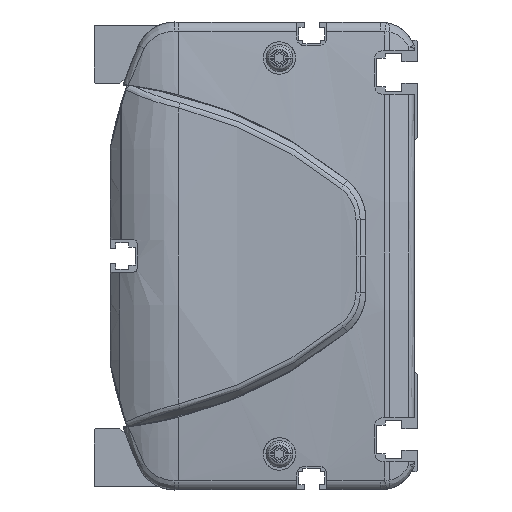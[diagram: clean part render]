
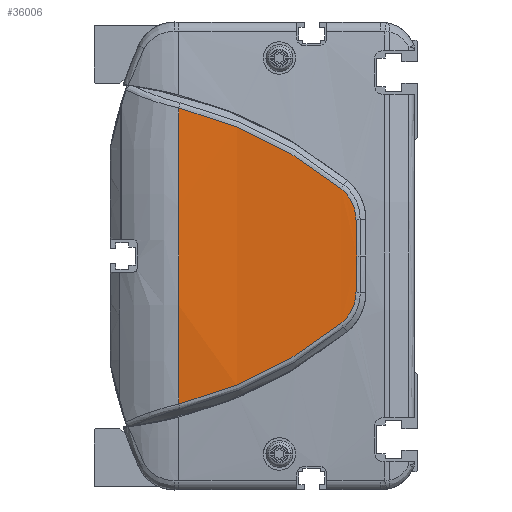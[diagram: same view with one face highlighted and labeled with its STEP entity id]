
A CAD part, left-side view. The second image highlights one B-rep face of the part: STEP entity #36006.
In plain terms, the highlighted cylindrical face has radius 500 mm (diameter 1000 mm), a partial arc.
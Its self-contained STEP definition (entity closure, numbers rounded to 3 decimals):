
#32158=CARTESIAN_POINT('',(486.,66.362,0.));
#32159=DIRECTION('',(0.,-1.,0.));
#32160=DIRECTION('',(-0.997,0.,0.082));
#32161=AXIS2_PLACEMENT_3D('',#32158,#32159,#32160);
#33099=CARTESIAN_POINT('',(-13.648,21.313,
-18.759));
#33100=CARTESIAN_POINT('',(-13.449,27.904,
-24.058));
#33101=CARTESIAN_POINT('',(-12.934,42.195,
-33.27));
#33102=CARTESIAN_POINT('',(-12.471,58.156,
-39.127));
#33103=CARTESIAN_POINT('',(-12.306,66.362,
-41.121));
#33105=CARTESIAN_POINT('',(-12.306,66.362,
41.121));
#33106=CARTESIAN_POINT('',(-12.471,58.156,
39.127));
#33107=CARTESIAN_POINT('',(-12.934,42.195,
33.27));
#33108=CARTESIAN_POINT('',(-13.449,27.904,
24.058));
#33109=CARTESIAN_POINT('',(-13.648,21.313,
18.759));
#33111=CARTESIAN_POINT('',(-13.648,21.313,
18.759));
#33112=CARTESIAN_POINT('',(-13.686,20.035,
17.736));
#33113=CARTESIAN_POINT('',(-13.779,17.936,
15.107));
#33114=CARTESIAN_POINT('',(-13.863,17.152,
11.827));
#33115=CARTESIAN_POINT('',(-13.896,17.124,
10.178));
#33117=CARTESIAN_POINT('',(-13.896,17.124,
10.178));
#33118=CARTESIAN_POINT('',(-13.92,17.107,
9.024));
#33119=CARTESIAN_POINT('',(-13.959,17.067,
6.731));
#33120=CARTESIAN_POINT('',(-13.993,16.98,
3.337));
#33121=CARTESIAN_POINT('',(-14.,16.898,
1.107));
#33122=CARTESIAN_POINT('',(-14.,16.849,
0.));
#33124=CARTESIAN_POINT('',(-14.,16.849,
0.));
#33125=CARTESIAN_POINT('',(-14.,16.898,
-1.107));
#33126=CARTESIAN_POINT('',(-13.993,16.98,
-3.337));
#33127=CARTESIAN_POINT('',(-13.959,17.067,
-6.73));
#33128=CARTESIAN_POINT('',(-13.92,17.107,
-9.026));
#33129=CARTESIAN_POINT('',(-13.896,17.124,
-10.18));
#33131=CARTESIAN_POINT('',(-13.896,17.124,
-10.18));
#33132=CARTESIAN_POINT('',(-13.863,17.152,
-11.828));
#33133=CARTESIAN_POINT('',(-13.779,17.937,
-15.109));
#33134=CARTESIAN_POINT('',(-13.686,20.035,
-17.736));
#33135=CARTESIAN_POINT('',(-13.648,21.313,
-18.759));
#33823=VERTEX_POINT('',#33099);
#33824=VERTEX_POINT('',#33103);
#33825=CARTESIAN_POINT('',(-12.306,66.362,
41.121));
#33826=VERTEX_POINT('',#33825);
#33827=VERTEX_POINT('',#33109);
#33828=VERTEX_POINT('',#33115);
#33829=VERTEX_POINT('',#33122);
#33830=VERTEX_POINT('',#33129);
#35987=CARTESIAN_POINT('',(486.,8.006,0.));
#35988=DIRECTION('',(0.,1.,0.));
#35989=DIRECTION('',(1.,0.,0.));
#35990=AXIS2_PLACEMENT_3D('',#35987,#35988,#35989);
#35991=CYLINDRICAL_SURFACE('',#35990,500.);
#35993=ORIENTED_EDGE('',*,*,#35992,.T.);
#35994=ORIENTED_EDGE('',*,*,#34601,.F.);
#35996=ORIENTED_EDGE('',*,*,#35995,.T.);
#35998=ORIENTED_EDGE('',*,*,#35997,.T.);
#36000=ORIENTED_EDGE('',*,*,#35999,.T.);
#36002=ORIENTED_EDGE('',*,*,#36001,.T.);
#36003=ORIENTED_EDGE('',*,*,#35977,.T.);
#36004=EDGE_LOOP('',(#35993,#35994,#35996,#35998,#36000,#36002,#36003));
#36005=FACE_OUTER_BOUND('',#36004,.F.);
#36006=ADVANCED_FACE('',(#36005),#35991,.T.);
#32162=CIRCLE('',#32161,500.);
#33104=B_SPLINE_CURVE_WITH_KNOTS('',3,(#33099,#33100,#33101,#33102,#33103),
.UNSPECIFIED.,.F.,.F.,(4,1,4),(0.,0.5,1.),.UNSPECIFIED.);
#33110=B_SPLINE_CURVE_WITH_KNOTS('',3,(#33105,#33106,#33107,#33108,#33109),
.UNSPECIFIED.,.F.,.F.,(4,1,4),(0.,0.5,1.),.UNSPECIFIED.);
#33116=B_SPLINE_CURVE_WITH_KNOTS('',3,(#33111,#33112,#33113,#33114,#33115),
.UNSPECIFIED.,.F.,.F.,(4,1,4),(0.,0.5,1.),.UNSPECIFIED.);
#33123=B_SPLINE_CURVE_WITH_KNOTS('',3,(#33117,#33118,#33119,#33120,#33121,
#33122),.UNSPECIFIED.,.F.,.F.,(4,1,1,4),(0.,0.333,
0.667,1.),.UNSPECIFIED.);
#33130=B_SPLINE_CURVE_WITH_KNOTS('',3,(#33124,#33125,#33126,#33127,#33128,
#33129),.UNSPECIFIED.,.F.,.F.,(4,1,1,4),(0.,0.333,
0.667,1.),.UNSPECIFIED.);
#33136=B_SPLINE_CURVE_WITH_KNOTS('',3,(#33131,#33132,#33133,#33134,#33135),
.UNSPECIFIED.,.F.,.F.,(4,1,4),(0.,0.5,1.),.UNSPECIFIED.);
#34601=EDGE_CURVE('',#33826,#33824,#32162,.T.);
#35977=EDGE_CURVE('',#33830,#33823,#33136,.T.);
#35992=EDGE_CURVE('',#33823,#33824,#33104,.T.);
#35995=EDGE_CURVE('',#33826,#33827,#33110,.T.);
#35997=EDGE_CURVE('',#33827,#33828,#33116,.T.);
#35999=EDGE_CURVE('',#33828,#33829,#33123,.T.);
#36001=EDGE_CURVE('',#33829,#33830,#33130,.T.);
